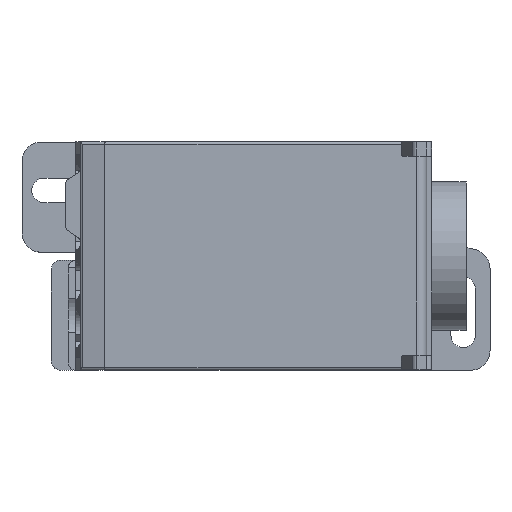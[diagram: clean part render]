
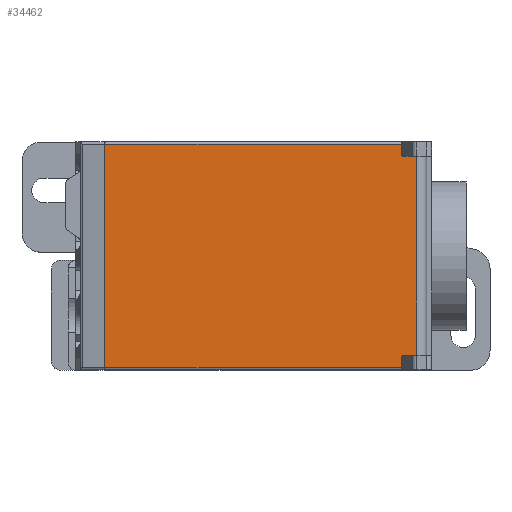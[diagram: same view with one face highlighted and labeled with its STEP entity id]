
A CAD part, top view. The second image highlights one B-rep face of the part: STEP entity #34462.
In plain terms, the highlighted planar face has unit normal (0, 0, 1).
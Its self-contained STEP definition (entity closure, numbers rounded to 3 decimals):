
#34462 = ADVANCED_FACE('',(#34463),#34477,.T.);
#34463 = FACE_BOUND('',#34464,.T.);
#34464 = EDGE_LOOP('',(#34465,#34488,#34504,#34520,#34541,#34557,#34573,
    #34589,#34605,#34621,#34642,#34658));
#34465 = ORIENTED_EDGE('',*,*,#34466,.F.);
#34466 = EDGE_CURVE('',#34467,#34469,#34471,.T.);
#34467 = VERTEX_POINT('',#34468);
#34468 = CARTESIAN_POINT('',(6.,0.5,43.1));
#34469 = VERTEX_POINT('',#34470);
#34470 = CARTESIAN_POINT('',(6.,46.3,43.1));
#34471 = SURFACE_CURVE('',#34472,(#34476),.PCURVE_S1.);
#34472 = LINE('',#34473,#34474);
#34473 = CARTESIAN_POINT('',(6.,46.8,43.1));
#34474 = VECTOR('',#34475,1.);
#34475 = DIRECTION('',(0.,1.,0.));
#34476 = PCURVE('',#34477,#34482);
#34477 = PLANE('',#34478);
#34478 = AXIS2_PLACEMENT_3D('',#34479,#34480,#34481);
#34479 = CARTESIAN_POINT('',(72.,46.8,43.1));
#34480 = DIRECTION('',(0.,0.,1.));
#34481 = DIRECTION('',(-1.,0.,0.));
#34482 = DEFINITIONAL_REPRESENTATION('',(#34483),#34487);
#34483 = LINE('',#34484,#34485);
#34484 = CARTESIAN_POINT('',(66.,0.));
#34485 = VECTOR('',#34486,1.);
#34486 = DIRECTION('',(0.,-1.));
#34487 = ( GEOMETRIC_REPRESENTATION_CONTEXT(2) 
PARAMETRIC_REPRESENTATION_CONTEXT() REPRESENTATION_CONTEXT('2D SPACE',''
  ) );
#34488 = ORIENTED_EDGE('',*,*,#34489,.T.);
#34489 = EDGE_CURVE('',#34467,#34490,#34492,.T.);
#34490 = VERTEX_POINT('',#34491);
#34491 = CARTESIAN_POINT('',(66.8,0.5,43.1));
#34492 = SURFACE_CURVE('',#34493,(#34497),.PCURVE_S1.);
#34493 = LINE('',#34494,#34495);
#34494 = CARTESIAN_POINT('',(66.8,0.5,43.1));
#34495 = VECTOR('',#34496,1.);
#34496 = DIRECTION('',(1.,0.,0.));
#34497 = PCURVE('',#34477,#34498);
#34498 = DEFINITIONAL_REPRESENTATION('',(#34499),#34503);
#34499 = LINE('',#34500,#34501);
#34500 = CARTESIAN_POINT('',(5.2,46.3));
#34501 = VECTOR('',#34502,1.);
#34502 = DIRECTION('',(-1.,0.));
#34503 = ( GEOMETRIC_REPRESENTATION_CONTEXT(2) 
PARAMETRIC_REPRESENTATION_CONTEXT() REPRESENTATION_CONTEXT('2D SPACE',''
  ) );
#34504 = ORIENTED_EDGE('',*,*,#34505,.T.);
#34505 = EDGE_CURVE('',#34490,#34506,#34508,.T.);
#34506 = VERTEX_POINT('',#34507);
#34507 = CARTESIAN_POINT('',(66.8,2.5,43.1));
#34508 = SURFACE_CURVE('',#34509,(#34513),.PCURVE_S1.);
#34509 = LINE('',#34510,#34511);
#34510 = CARTESIAN_POINT('',(66.8,0.,43.1));
#34511 = VECTOR('',#34512,1.);
#34512 = DIRECTION('',(0.,1.,0.));
#34513 = PCURVE('',#34477,#34514);
#34514 = DEFINITIONAL_REPRESENTATION('',(#34515),#34519);
#34515 = LINE('',#34516,#34517);
#34516 = CARTESIAN_POINT('',(5.2,46.8));
#34517 = VECTOR('',#34518,1.);
#34518 = DIRECTION('',(0.,-1.));
#34519 = ( GEOMETRIC_REPRESENTATION_CONTEXT(2) 
PARAMETRIC_REPRESENTATION_CONTEXT() REPRESENTATION_CONTEXT('2D SPACE',''
  ) );
#34520 = ORIENTED_EDGE('',*,*,#34521,.T.);
#34521 = EDGE_CURVE('',#34506,#34522,#34524,.T.);
#34522 = VERTEX_POINT('',#34523);
#34523 = CARTESIAN_POINT('',(67.3,3.,43.1));
#34524 = SURFACE_CURVE('',#34525,(#34530),.PCURVE_S1.);
#34525 = CIRCLE('',#34526,0.5);
#34526 = AXIS2_PLACEMENT_3D('',#34527,#34528,#34529);
#34527 = CARTESIAN_POINT('',(67.3,2.5,43.1));
#34528 = DIRECTION('',(0.,0.,-1.));
#34529 = DIRECTION('',(-1.,0.,0.));
#34530 = PCURVE('',#34477,#34531);
#34531 = DEFINITIONAL_REPRESENTATION('',(#34532),#34540);
#34532 = ( BOUNDED_CURVE() B_SPLINE_CURVE(2,(#34533,#34534,#34535,#34536
    ,#34537,#34538,#34539),.UNSPECIFIED.,.F.,.F.) 
B_SPLINE_CURVE_WITH_KNOTS((1,2,2,2,2,1),(-2.094,0.,
    2.094,4.189,6.283,8.378),
.UNSPECIFIED.) CURVE() GEOMETRIC_REPRESENTATION_ITEM() 
RATIONAL_B_SPLINE_CURVE((1.,0.5,1.,0.5,1.,0.5,1.)) REPRESENTATION_ITEM(
  '') );
#34533 = CARTESIAN_POINT('',(5.2,44.3));
#34534 = CARTESIAN_POINT('',(5.2,43.434));
#34535 = CARTESIAN_POINT('',(4.45,43.867));
#34536 = CARTESIAN_POINT('',(3.7,44.3));
#34537 = CARTESIAN_POINT('',(4.45,44.733));
#34538 = CARTESIAN_POINT('',(5.2,45.166));
#34539 = CARTESIAN_POINT('',(5.2,44.3));
#34540 = ( GEOMETRIC_REPRESENTATION_CONTEXT(2) 
PARAMETRIC_REPRESENTATION_CONTEXT() REPRESENTATION_CONTEXT('2D SPACE',''
  ) );
#34541 = ORIENTED_EDGE('',*,*,#34542,.T.);
#34542 = EDGE_CURVE('',#34522,#34543,#34545,.T.);
#34543 = VERTEX_POINT('',#34544);
#34544 = CARTESIAN_POINT('',(68.631,3.,43.1));
#34545 = SURFACE_CURVE('',#34546,(#34550),.PCURVE_S1.);
#34546 = LINE('',#34547,#34548);
#34547 = CARTESIAN_POINT('',(66.8,3.,43.1));
#34548 = VECTOR('',#34549,1.);
#34549 = DIRECTION('',(1.,0.,0.));
#34550 = PCURVE('',#34477,#34551);
#34551 = DEFINITIONAL_REPRESENTATION('',(#34552),#34556);
#34552 = LINE('',#34553,#34554);
#34553 = CARTESIAN_POINT('',(5.2,43.8));
#34554 = VECTOR('',#34555,1.);
#34555 = DIRECTION('',(-1.,0.));
#34556 = ( GEOMETRIC_REPRESENTATION_CONTEXT(2) 
PARAMETRIC_REPRESENTATION_CONTEXT() REPRESENTATION_CONTEXT('2D SPACE',''
  ) );
#34557 = ORIENTED_EDGE('',*,*,#34558,.T.);
#34558 = EDGE_CURVE('',#34543,#34559,#34561,.T.);
#34559 = VERTEX_POINT('',#34560);
#34560 = CARTESIAN_POINT('',(70.,3.,43.1));
#34561 = SURFACE_CURVE('',#34562,(#34566),.PCURVE_S1.);
#34562 = LINE('',#34563,#34564);
#34563 = CARTESIAN_POINT('',(66.8,3.,43.1));
#34564 = VECTOR('',#34565,1.);
#34565 = DIRECTION('',(1.,0.,0.));
#34566 = PCURVE('',#34477,#34567);
#34567 = DEFINITIONAL_REPRESENTATION('',(#34568),#34572);
#34568 = LINE('',#34569,#34570);
#34569 = CARTESIAN_POINT('',(5.2,43.8));
#34570 = VECTOR('',#34571,1.);
#34571 = DIRECTION('',(-1.,0.));
#34572 = ( GEOMETRIC_REPRESENTATION_CONTEXT(2) 
PARAMETRIC_REPRESENTATION_CONTEXT() REPRESENTATION_CONTEXT('2D SPACE',''
  ) );
#34573 = ORIENTED_EDGE('',*,*,#34574,.T.);
#34574 = EDGE_CURVE('',#34559,#34575,#34577,.T.);
#34575 = VERTEX_POINT('',#34576);
#34576 = CARTESIAN_POINT('',(70.,43.8,43.1));
#34577 = SURFACE_CURVE('',#34578,(#34582),.PCURVE_S1.);
#34578 = LINE('',#34579,#34580);
#34579 = CARTESIAN_POINT('',(70.,43.8,43.1));
#34580 = VECTOR('',#34581,1.);
#34581 = DIRECTION('',(0.,1.,0.));
#34582 = PCURVE('',#34477,#34583);
#34583 = DEFINITIONAL_REPRESENTATION('',(#34584),#34588);
#34584 = LINE('',#34585,#34586);
#34585 = CARTESIAN_POINT('',(2.,3.));
#34586 = VECTOR('',#34587,1.);
#34587 = DIRECTION('',(0.,-1.));
#34588 = ( GEOMETRIC_REPRESENTATION_CONTEXT(2) 
PARAMETRIC_REPRESENTATION_CONTEXT() REPRESENTATION_CONTEXT('2D SPACE',''
  ) );
#34589 = ORIENTED_EDGE('',*,*,#34590,.T.);
#34590 = EDGE_CURVE('',#34575,#34591,#34593,.T.);
#34591 = VERTEX_POINT('',#34592);
#34592 = CARTESIAN_POINT('',(68.631,43.8,43.1));
#34593 = SURFACE_CURVE('',#34594,(#34598),.PCURVE_S1.);
#34594 = LINE('',#34595,#34596);
#34595 = CARTESIAN_POINT('',(72.,43.8,43.1));
#34596 = VECTOR('',#34597,1.);
#34597 = DIRECTION('',(-1.,0.,0.));
#34598 = PCURVE('',#34477,#34599);
#34599 = DEFINITIONAL_REPRESENTATION('',(#34600),#34604);
#34600 = LINE('',#34601,#34602);
#34601 = CARTESIAN_POINT('',(0.,3.));
#34602 = VECTOR('',#34603,1.);
#34603 = DIRECTION('',(1.,0.));
#34604 = ( GEOMETRIC_REPRESENTATION_CONTEXT(2) 
PARAMETRIC_REPRESENTATION_CONTEXT() REPRESENTATION_CONTEXT('2D SPACE',''
  ) );
#34605 = ORIENTED_EDGE('',*,*,#34606,.T.);
#34606 = EDGE_CURVE('',#34591,#34607,#34609,.T.);
#34607 = VERTEX_POINT('',#34608);
#34608 = CARTESIAN_POINT('',(67.3,43.8,43.1));
#34609 = SURFACE_CURVE('',#34610,(#34614),.PCURVE_S1.);
#34610 = LINE('',#34611,#34612);
#34611 = CARTESIAN_POINT('',(72.,43.8,43.1));
#34612 = VECTOR('',#34613,1.);
#34613 = DIRECTION('',(-1.,0.,0.));
#34614 = PCURVE('',#34477,#34615);
#34615 = DEFINITIONAL_REPRESENTATION('',(#34616),#34620);
#34616 = LINE('',#34617,#34618);
#34617 = CARTESIAN_POINT('',(0.,3.));
#34618 = VECTOR('',#34619,1.);
#34619 = DIRECTION('',(1.,0.));
#34620 = ( GEOMETRIC_REPRESENTATION_CONTEXT(2) 
PARAMETRIC_REPRESENTATION_CONTEXT() REPRESENTATION_CONTEXT('2D SPACE',''
  ) );
#34621 = ORIENTED_EDGE('',*,*,#34622,.T.);
#34622 = EDGE_CURVE('',#34607,#34623,#34625,.T.);
#34623 = VERTEX_POINT('',#34624);
#34624 = CARTESIAN_POINT('',(66.8,44.3,43.1));
#34625 = SURFACE_CURVE('',#34626,(#34631),.PCURVE_S1.);
#34626 = CIRCLE('',#34627,0.5);
#34627 = AXIS2_PLACEMENT_3D('',#34628,#34629,#34630);
#34628 = CARTESIAN_POINT('',(67.3,44.3,43.1));
#34629 = DIRECTION('',(0.,0.,-1.));
#34630 = DIRECTION('',(-1.,0.,0.));
#34631 = PCURVE('',#34477,#34632);
#34632 = DEFINITIONAL_REPRESENTATION('',(#34633),#34641);
#34633 = ( BOUNDED_CURVE() B_SPLINE_CURVE(2,(#34634,#34635,#34636,#34637
    ,#34638,#34639,#34640),.UNSPECIFIED.,.F.,.F.) 
B_SPLINE_CURVE_WITH_KNOTS((1,2,2,2,2,1),(-2.094,0.,
    2.094,4.189,6.283,8.378),
.UNSPECIFIED.) CURVE() GEOMETRIC_REPRESENTATION_ITEM() 
RATIONAL_B_SPLINE_CURVE((1.,0.5,1.,0.5,1.,0.5,1.)) REPRESENTATION_ITEM(
  '') );
#34634 = CARTESIAN_POINT('',(5.2,2.5));
#34635 = CARTESIAN_POINT('',(5.2,1.634));
#34636 = CARTESIAN_POINT('',(4.45,2.067));
#34637 = CARTESIAN_POINT('',(3.7,2.5));
#34638 = CARTESIAN_POINT('',(4.45,2.933));
#34639 = CARTESIAN_POINT('',(5.2,3.366));
#34640 = CARTESIAN_POINT('',(5.2,2.5));
#34641 = ( GEOMETRIC_REPRESENTATION_CONTEXT(2) 
PARAMETRIC_REPRESENTATION_CONTEXT() REPRESENTATION_CONTEXT('2D SPACE',''
  ) );
#34642 = ORIENTED_EDGE('',*,*,#34643,.T.);
#34643 = EDGE_CURVE('',#34623,#34644,#34646,.T.);
#34644 = VERTEX_POINT('',#34645);
#34645 = CARTESIAN_POINT('',(66.8,46.3,43.1));
#34646 = SURFACE_CURVE('',#34647,(#34651),.PCURVE_S1.);
#34647 = LINE('',#34648,#34649);
#34648 = CARTESIAN_POINT('',(66.8,43.8,43.1));
#34649 = VECTOR('',#34650,1.);
#34650 = DIRECTION('',(0.,1.,0.));
#34651 = PCURVE('',#34477,#34652);
#34652 = DEFINITIONAL_REPRESENTATION('',(#34653),#34657);
#34653 = LINE('',#34654,#34655);
#34654 = CARTESIAN_POINT('',(5.2,3.));
#34655 = VECTOR('',#34656,1.);
#34656 = DIRECTION('',(0.,-1.));
#34657 = ( GEOMETRIC_REPRESENTATION_CONTEXT(2) 
PARAMETRIC_REPRESENTATION_CONTEXT() REPRESENTATION_CONTEXT('2D SPACE',''
  ) );
#34658 = ORIENTED_EDGE('',*,*,#34659,.T.);
#34659 = EDGE_CURVE('',#34644,#34469,#34660,.T.);
#34660 = SURFACE_CURVE('',#34661,(#34665),.PCURVE_S1.);
#34661 = LINE('',#34662,#34663);
#34662 = CARTESIAN_POINT('',(6.,46.3,43.1));
#34663 = VECTOR('',#34664,1.);
#34664 = DIRECTION('',(-1.,0.,0.));
#34665 = PCURVE('',#34477,#34666);
#34666 = DEFINITIONAL_REPRESENTATION('',(#34667),#34671);
#34667 = LINE('',#34668,#34669);
#34668 = CARTESIAN_POINT('',(66.,0.5));
#34669 = VECTOR('',#34670,1.);
#34670 = DIRECTION('',(1.,0.));
#34671 = ( GEOMETRIC_REPRESENTATION_CONTEXT(2) 
PARAMETRIC_REPRESENTATION_CONTEXT() REPRESENTATION_CONTEXT('2D SPACE',''
  ) );
